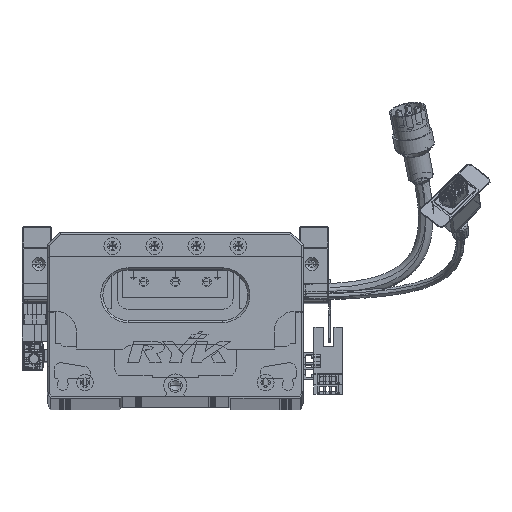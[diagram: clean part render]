
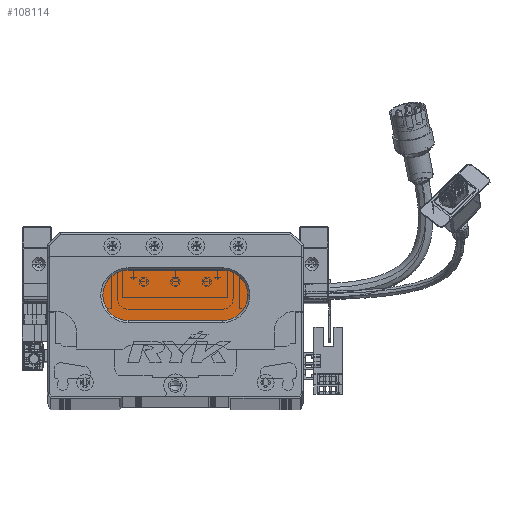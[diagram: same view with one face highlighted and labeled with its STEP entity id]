
A CAD part, top view. The second image highlights one B-rep face of the part: STEP entity #108114.
In plain terms, the highlighted planar face has unit normal (0, 0, 1) as drawn and (0, 0, -1) by its records, which use the part's own axes.
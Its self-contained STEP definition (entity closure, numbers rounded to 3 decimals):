
#481 = AXIS2_PLACEMENT_3D ( 'NONE', #51005, #135350, #72273 ) ;
#2984 = VECTOR ( 'NONE', #124382, 1000. ) ;
#3104 = CARTESIAN_POINT ( 'NONE',  ( 83.5, 36., 13. ) ) ;
#6102 = VERTEX_POINT ( 'NONE', #6366 ) ;
#6366 = CARTESIAN_POINT ( 'NONE',  ( 83.5, 60., 13. ) ) ;
#7959 = AXIS2_PLACEMENT_3D ( 'NONE', #29831, #81042, #133975 ) ;
#13151 = EDGE_LOOP ( 'NONE', ( #70735, #14712, #85619, #121798, #45220 ) ) ;
#14712 = ORIENTED_EDGE ( 'NONE', *, *, #100168, .T. ) ;
#23882 = CARTESIAN_POINT ( 'NONE',  ( 38.5, 36., 13. ) ) ;
#26071 = VERTEX_POINT ( 'NONE', #3104 ) ;
#26653 = EDGE_CURVE ( 'NONE', #89560, #6102, #123748, .T. ) ;
#29831 = CARTESIAN_POINT ( 'NONE',  ( 83.5, 48., 13. ) ) ;
#36293 = DIRECTION ( 'NONE',  ( -1., 0., 0. ) ) ;
#42452 = CARTESIAN_POINT ( 'NONE',  ( 26.5, 48., 13. ) ) ;
#44391 = FACE_OUTER_BOUND ( 'NONE', #13151, .T. ) ;
#45220 = ORIENTED_EDGE ( 'NONE', *, *, #26653, .T. ) ;
#47089 = CIRCLE ( 'NONE', #82138, 12. ) ;
#51005 = CARTESIAN_POINT ( 'NONE',  ( 38.5, 48., 13. ) ) ;
#54980 = EDGE_CURVE ( 'NONE', #110264, #89560, #47089, .T. ) ;
#57155 = PLANE ( 'NONE',  #132365 ) ;
#58693 = VERTEX_POINT ( 'NONE', #23882 ) ;
#58889 = EDGE_CURVE ( 'NONE', #6102, #26071, #67970, .T. ) ;
#62619 = CARTESIAN_POINT ( 'NONE',  ( 83.5, 36., 13. ) ) ;
#64403 = VECTOR ( 'NONE', #120512, 1000. ) ;
#65445 = DIRECTION ( 'NONE',  ( 0., 0., -1. ) ) ;
#67970 = CIRCLE ( 'NONE', #7959, 12. ) ;
#70088 = CARTESIAN_POINT ( 'NONE',  ( 38.5, 60., 13. ) ) ;
#70735 = ORIENTED_EDGE ( 'NONE', *, *, #58889, .T. ) ;
#72273 = DIRECTION ( 'NONE',  ( -1., 0., 0. ) ) ;
#81042 = DIRECTION ( 'NONE',  ( 0., 0., -1. ) ) ;
#82138 = AXIS2_PLACEMENT_3D ( 'NONE', #118422, #65445, #86667 ) ;
#84379 = CIRCLE ( 'NONE', #481, 12. ) ;
#85619 = ORIENTED_EDGE ( 'NONE', *, *, #122980, .T. ) ;
#86667 = DIRECTION ( 'NONE',  ( -1., 0., 0. ) ) ;
#89560 = VERTEX_POINT ( 'NONE', #70088 ) ;
#98899 = CARTESIAN_POINT ( 'NONE',  ( 83.5, 60., 13. ) ) ;
#100168 = EDGE_CURVE ( 'NONE', #26071, #58693, #107042, .T. ) ;
#107042 = LINE ( 'NONE', #62619, #2984 ) ;
#108055 = DIRECTION ( 'NONE',  ( 0., 0., -1. ) ) ;
#108114 = ADVANCED_FACE ( 'NONE', ( #44391 ), #57155, .T. ) ;
#110264 = VERTEX_POINT ( 'NONE', #42452 ) ;
#118422 = CARTESIAN_POINT ( 'NONE',  ( 38.5, 48., 13. ) ) ;
#119118 = CARTESIAN_POINT ( 'NONE',  ( 83.5, 48., 13. ) ) ;
#120512 = DIRECTION ( 'NONE',  ( 1., 0., 0. ) ) ;
#121798 = ORIENTED_EDGE ( 'NONE', *, *, #54980, .T. ) ;
#122980 = EDGE_CURVE ( 'NONE', #58693, #110264, #84379, .T. ) ;
#123748 = LINE ( 'NONE', #98899, #64403 ) ;
#124382 = DIRECTION ( 'NONE',  ( -1., 0., 0. ) ) ;
#132365 = AXIS2_PLACEMENT_3D ( 'NONE', #119118, #108055, #36293 ) ;
#133975 = DIRECTION ( 'NONE',  ( -1., 0., 0. ) ) ;
#135350 = DIRECTION ( 'NONE',  ( 0., 0., -1. ) ) ;
